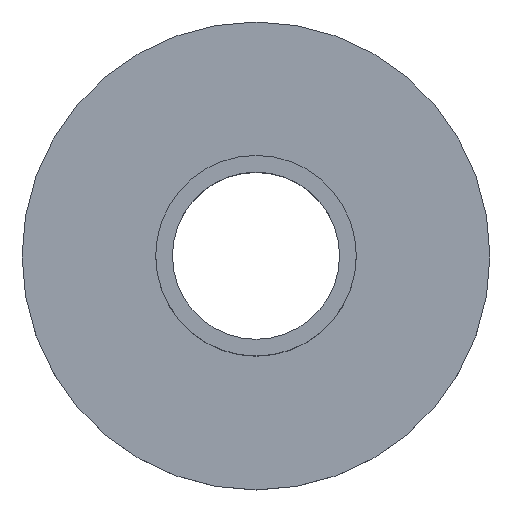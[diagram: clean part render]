
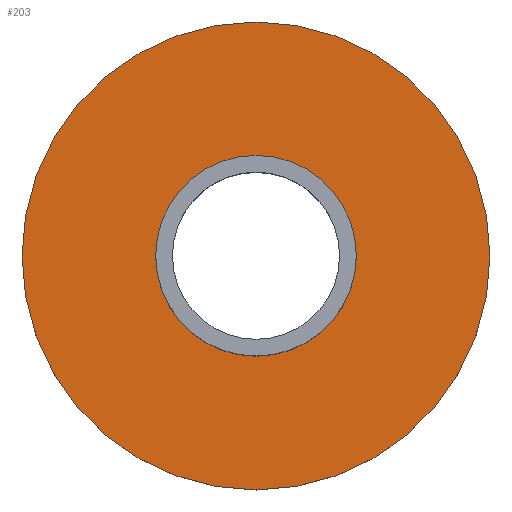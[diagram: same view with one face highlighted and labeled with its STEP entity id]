
A CAD part, top view. The second image highlights one B-rep face of the part: STEP entity #203.
In plain terms, the highlighted planar face has unit normal (0, 0, 1).
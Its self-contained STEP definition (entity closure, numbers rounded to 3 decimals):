
#1 = DIRECTION ( 'NONE',  ( -1., 0., 0. ) ) ;
#27 = AXIS2_PLACEMENT_3D ( 'NONE', #147, #196, #1 ) ;
#36 = CIRCLE ( 'NONE', #279, 3. ) ;
#47 = CARTESIAN_POINT ( 'NONE',  ( 3., 0., 0. ) ) ;
#48 = EDGE_CURVE ( 'NONE', #136, #115, #78, .T. ) ;
#50 = CARTESIAN_POINT ( 'NONE',  ( 0., 0., 0. ) ) ;
#72 = PLANE ( 'NONE',  #157 ) ;
#78 = CIRCLE ( 'NONE', #82, 3. ) ;
#82 = AXIS2_PLACEMENT_3D ( 'NONE', #273, #298, #247 ) ;
#84 = EDGE_CURVE ( 'NONE', #144, #156, #294, .T. ) ;
#94 = EDGE_CURVE ( 'NONE', #156, #144, #172, .T. ) ;
#95 = FACE_BOUND ( 'NONE', #236, .T. ) ;
#107 = DIRECTION ( 'NONE',  ( -1., 0., 0. ) ) ;
#115 = VERTEX_POINT ( 'NONE', #47 ) ;
#125 = DIRECTION ( 'NONE',  ( -1., 0., 0. ) ) ;
#136 = VERTEX_POINT ( 'NONE', #301 ) ;
#144 = VERTEX_POINT ( 'NONE', #199 ) ;
#147 = CARTESIAN_POINT ( 'NONE',  ( 0., 0., 0. ) ) ;
#151 = CARTESIAN_POINT ( 'NONE',  ( -7., 0., 0. ) ) ;
#156 = VERTEX_POINT ( 'NONE', #151 ) ;
#157 = AXIS2_PLACEMENT_3D ( 'NONE', #171, #200, #107 ) ;
#159 = EDGE_LOOP ( 'NONE', ( #286, #320 ) ) ;
#171 = CARTESIAN_POINT ( 'NONE',  ( 0., 0., 0. ) ) ;
#172 = CIRCLE ( 'NONE', #27, 7. ) ;
#196 = DIRECTION ( 'NONE',  ( 0., 0., -1. ) ) ;
#199 = CARTESIAN_POINT ( 'NONE',  ( 7., 0., 0. ) ) ;
#200 = DIRECTION ( 'NONE',  ( 0., 0., -1. ) ) ;
#203 = ADVANCED_FACE ( 'NONE', ( #95, #297 ), #72, .F. ) ;
#236 = EDGE_LOOP ( 'NONE', ( #241, #242 ) ) ;
#241 = ORIENTED_EDGE ( 'NONE', *, *, #48, .F. ) ;
#242 = ORIENTED_EDGE ( 'NONE', *, *, #307, .F. ) ;
#247 = DIRECTION ( 'NONE',  ( 1., 0., 0. ) ) ;
#252 = DIRECTION ( 'NONE',  ( 0., 0., -1. ) ) ;
#257 = DIRECTION ( 'NONE',  ( 1., 0., 0. ) ) ;
#260 = AXIS2_PLACEMENT_3D ( 'NONE', #50, #252, #125 ) ;
#273 = CARTESIAN_POINT ( 'NONE',  ( 0., 0., 0. ) ) ;
#275 = DIRECTION ( 'NONE',  ( 0., 0., 1. ) ) ;
#279 = AXIS2_PLACEMENT_3D ( 'NONE', #280, #275, #257 ) ;
#280 = CARTESIAN_POINT ( 'NONE',  ( 0., 0., 0. ) ) ;
#286 = ORIENTED_EDGE ( 'NONE', *, *, #84, .F. ) ;
#294 = CIRCLE ( 'NONE', #260, 7. ) ;
#297 = FACE_OUTER_BOUND ( 'NONE', #159, .T. ) ;
#298 = DIRECTION ( 'NONE',  ( 0., 0., 1. ) ) ;
#301 = CARTESIAN_POINT ( 'NONE',  ( -3., 0., 0. ) ) ;
#307 = EDGE_CURVE ( 'NONE', #115, #136, #36, .T. ) ;
#320 = ORIENTED_EDGE ( 'NONE', *, *, #94, .F. ) ;
